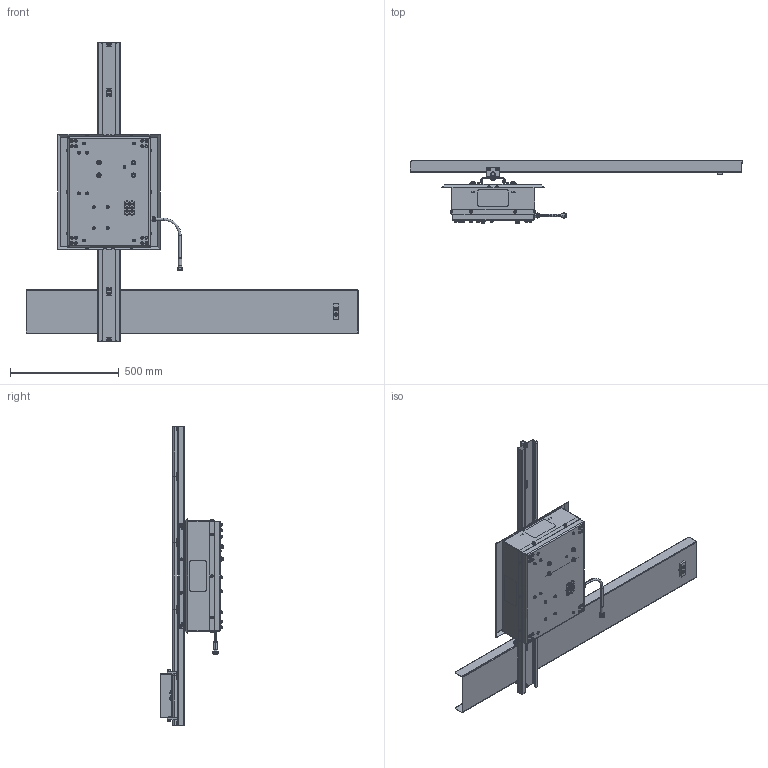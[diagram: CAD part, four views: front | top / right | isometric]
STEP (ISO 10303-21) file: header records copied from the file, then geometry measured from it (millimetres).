
FILE_DESCRIPTION (( 'STEP AP203' ), '1' );
FILE_NAME ('EGD-125 Assembly Exterior Only.STEP', '2013-09-04T18:00:12', ( 'paxadmin' ), ( 'Microsoft' ), 'SwSTEP 2.0', 'SolidWorks 2013', '' );
FILE_SCHEMA (( 'CONFIG_CONTROL_DESIGN' ));
Products named in the file (1): EGD-125 Assembly Exterior Only
Bounding box: 1524 x 285.7 x 1371.6 mm (x, y, z)
Surface area: 3117027.4 mm2 (no closed solid volume)
Topology: 0 solids, 234 shells, 1496 faces, 4982 edges, 3597 vertices
Faces by surface type: plane 811, cylinder 347, torus 188, cone 115, bspline 27, sphere 8
Entity records: 59278 total; most frequent: CARTESIAN_POINT 16314, DIRECTION 9329, ORIENTED_EDGE 7341, EDGE_CURVE 4982, AXIS2_PLACEMENT_3D 3645, VERTEX_POINT 3597, CIRCLE 2175, VECTOR 2039
